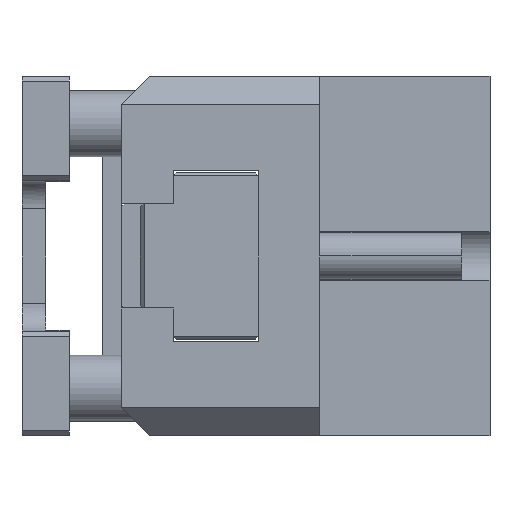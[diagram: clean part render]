
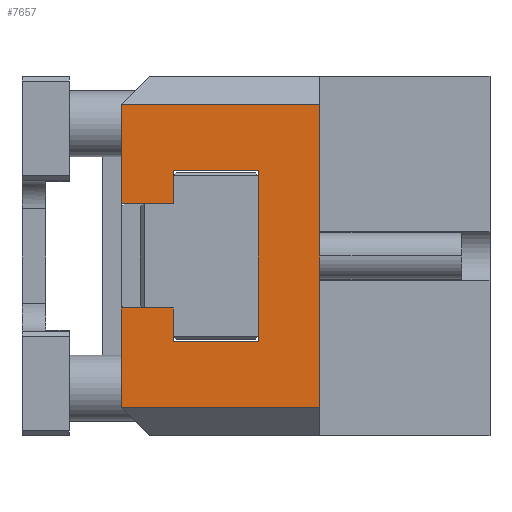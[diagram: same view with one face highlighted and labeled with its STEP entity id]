
A CAD part, left-side view. The second image highlights one B-rep face of the part: STEP entity #7657.
In plain terms, the highlighted planar face has unit normal (-1, 0, 0).
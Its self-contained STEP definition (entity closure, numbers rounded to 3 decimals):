
#239 = EDGE_CURVE ( 'NONE', #41053, #2170, #39361, .T. ) ;
#1437 = CARTESIAN_POINT ( 'NONE',  ( -32., 18., 16. ) ) ;
#1864 = VECTOR ( 'NONE', #50058, 1000. ) ;
#2170 = VERTEX_POINT ( 'NONE', #10086 ) ;
#2484 = EDGE_CURVE ( 'NONE', #2170, #48586, #17362, .T. ) ;
#3761 = LINE ( 'NONE', #38255, #43739 ) ;
#4165 = CARTESIAN_POINT ( 'NONE',  ( -32., 33.5, -5.5 ) ) ;
#4199 = ORIENTED_EDGE ( 'NONE', *, *, #10415, .F. ) ;
#4478 = CARTESIAN_POINT ( 'NONE',  ( -32., 39., 9. ) ) ;
#4515 = VECTOR ( 'NONE', #17251, 1000. ) ;
#4561 = CARTESIAN_POINT ( 'NONE',  ( -32., 24.5, 9. ) ) ;
#5506 = CARTESIAN_POINT ( 'NONE',  ( -32., 39., 19. ) ) ;
#6650 = EDGE_CURVE ( 'NONE', #12681, #35071, #30238, .T. ) ;
#7009 = CARTESIAN_POINT ( 'NONE',  ( -32., 18., -16. ) ) ;
#7068 = ORIENTED_EDGE ( 'NONE', *, *, #2484, .F. ) ;
#7374 = ORIENTED_EDGE ( 'NONE', *, *, #16388, .F. ) ;
#7657 = ADVANCED_FACE ( 'NONE', ( #30190 ), #7970, .F. ) ;
#7970 = PLANE ( 'NONE',  #33285 ) ;
#8511 = CARTESIAN_POINT ( 'NONE',  ( -32., 39., -5.5 ) ) ;
#9303 = CARTESIAN_POINT ( 'NONE',  ( -32., 39., -5.5 ) ) ;
#9557 = CARTESIAN_POINT ( 'NONE',  ( -32., 39., 5.5 ) ) ;
#10086 = CARTESIAN_POINT ( 'NONE',  ( -32., 33.5, -9. ) ) ;
#10415 = EDGE_CURVE ( 'NONE', #37239, #36576, #34174, .T. ) ;
#11374 = CARTESIAN_POINT ( 'NONE',  ( -32., 24.5, 19. ) ) ;
#11967 = DIRECTION ( 'NONE',  ( 1., 0., 0. ) ) ;
#12273 = ORIENTED_EDGE ( 'NONE', *, *, #13767, .F. ) ;
#12681 = VERTEX_POINT ( 'NONE', #15464 ) ;
#12757 = LINE ( 'NONE', #4478, #23415 ) ;
#12841 = ORIENTED_EDGE ( 'NONE', *, *, #22508, .T. ) ;
#13315 = DIRECTION ( 'NONE',  ( 0., -1., 0. ) ) ;
#13422 = EDGE_CURVE ( 'NONE', #40633, #47860, #12757, .T. ) ;
#13767 = EDGE_CURVE ( 'NONE', #48586, #40633, #35880, .T. ) ;
#14076 = CARTESIAN_POINT ( 'NONE',  ( -32., 33.5, 19. ) ) ;
#14309 = VECTOR ( 'NONE', #41452, 1000. ) ;
#15464 = CARTESIAN_POINT ( 'NONE',  ( -32., 33.5, 5.5 ) ) ;
#15598 = VECTOR ( 'NONE', #27418, 1000. ) ;
#16388 = EDGE_CURVE ( 'NONE', #35071, #37239, #38888, .T. ) ;
#17250 = ORIENTED_EDGE ( 'NONE', *, *, #6650, .F. ) ;
#17251 = DIRECTION ( 'NONE',  ( 0., 0., 1. ) ) ;
#17362 = LINE ( 'NONE', #44159, #25490 ) ;
#19718 = CARTESIAN_POINT ( 'NONE',  ( -32., 33.5, 9. ) ) ;
#20158 = VECTOR ( 'NONE', #42085, 1000. ) ;
#20543 = DIRECTION ( 'NONE',  ( 0., 1., 0. ) ) ;
#22203 = EDGE_CURVE ( 'NONE', #47860, #12681, #33688, .T. ) ;
#22508 = EDGE_CURVE ( 'NONE', #41658, #39582, #24938, .T. ) ;
#23415 = VECTOR ( 'NONE', #20543, 1000. ) ;
#23549 = CARTESIAN_POINT ( 'NONE',  ( -32., 39., 19. ) ) ;
#23773 = VERTEX_POINT ( 'NONE', #7009 ) ;
#23885 = LINE ( 'NONE', #9303, #34497 ) ;
#24253 = DIRECTION ( 'NONE',  ( 0., -1., 0. ) ) ;
#24938 = LINE ( 'NONE', #5506, #14309 ) ;
#25264 = VECTOR ( 'NONE', #27642, 1000. ) ;
#25490 = VECTOR ( 'NONE', #24253, 1000. ) ;
#25901 = CARTESIAN_POINT ( 'NONE',  ( -32., 39., 5.5 ) ) ;
#27418 = DIRECTION ( 'NONE',  ( 0., 0., -1. ) ) ;
#27642 = DIRECTION ( 'NONE',  ( 0., 0., 1. ) ) ;
#28258 = ORIENTED_EDGE ( 'NONE', *, *, #39418, .T. ) ;
#29032 = EDGE_LOOP ( 'NONE', ( #17250, #46228, #50044, #12273, #7068, #45020, #34733, #12841, #32199, #28258, #4199, #7374 ) ) ;
#29564 = CARTESIAN_POINT ( 'NONE',  ( -32., 24.5, -9. ) ) ;
#30190 = FACE_OUTER_BOUND ( 'NONE', #29032, .T. ) ;
#30238 = LINE ( 'NONE', #9557, #31486 ) ;
#30603 = EDGE_CURVE ( 'NONE', #39582, #23773, #3761, .T. ) ;
#31486 = VECTOR ( 'NONE', #41343, 1000. ) ;
#32199 = ORIENTED_EDGE ( 'NONE', *, *, #30603, .T. ) ;
#32972 = CARTESIAN_POINT ( 'NONE',  ( -32., 39., 16. ) ) ;
#33285 = AXIS2_PLACEMENT_3D ( 'NONE', #23549, #11967, #39929 ) ;
#33688 = LINE ( 'NONE', #14076, #1864 ) ;
#34174 = LINE ( 'NONE', #32972, #43570 ) ;
#34497 = VECTOR ( 'NONE', #13315, 1000. ) ;
#34733 = ORIENTED_EDGE ( 'NONE', *, *, #40234, .F. ) ;
#35071 = VERTEX_POINT ( 'NONE', #25901 ) ;
#35880 = LINE ( 'NONE', #11374, #25264 ) ;
#36576 = VERTEX_POINT ( 'NONE', #1437 ) ;
#37239 = VERTEX_POINT ( 'NONE', #40732 ) ;
#38255 = CARTESIAN_POINT ( 'NONE',  ( -32., 39., -16. ) ) ;
#38888 = LINE ( 'NONE', #49231, #4515 ) ;
#39361 = LINE ( 'NONE', #43321, #15598 ) ;
#39418 = EDGE_CURVE ( 'NONE', #23773, #36576, #41403, .T. ) ;
#39582 = VERTEX_POINT ( 'NONE', #47158 ) ;
#39929 = DIRECTION ( 'NONE',  ( 0., 1., 0. ) ) ;
#40234 = EDGE_CURVE ( 'NONE', #41658, #41053, #23885, .T. ) ;
#40633 = VERTEX_POINT ( 'NONE', #4561 ) ;
#40732 = CARTESIAN_POINT ( 'NONE',  ( -32., 39., 16. ) ) ;
#41053 = VERTEX_POINT ( 'NONE', #4165 ) ;
#41343 = DIRECTION ( 'NONE',  ( 0., 1., 0. ) ) ;
#41403 = LINE ( 'NONE', #46136, #20158 ) ;
#41452 = DIRECTION ( 'NONE',  ( 0., 0., -1. ) ) ;
#41658 = VERTEX_POINT ( 'NONE', #8511 ) ;
#42085 = DIRECTION ( 'NONE',  ( 0., 0., 1. ) ) ;
#43321 = CARTESIAN_POINT ( 'NONE',  ( -32., 33.5, 19. ) ) ;
#43570 = VECTOR ( 'NONE', #49069, 1000. ) ;
#43739 = VECTOR ( 'NONE', #46311, 1000. ) ;
#44159 = CARTESIAN_POINT ( 'NONE',  ( -32., 39., -9. ) ) ;
#45020 = ORIENTED_EDGE ( 'NONE', *, *, #239, .F. ) ;
#46136 = CARTESIAN_POINT ( 'NONE',  ( -32., 18., 19. ) ) ;
#46228 = ORIENTED_EDGE ( 'NONE', *, *, #22203, .F. ) ;
#46311 = DIRECTION ( 'NONE',  ( 0., -1., 0. ) ) ;
#47158 = CARTESIAN_POINT ( 'NONE',  ( -32., 39., -16. ) ) ;
#47860 = VERTEX_POINT ( 'NONE', #19718 ) ;
#48586 = VERTEX_POINT ( 'NONE', #29564 ) ;
#49069 = DIRECTION ( 'NONE',  ( 0., -1., 0. ) ) ;
#49231 = CARTESIAN_POINT ( 'NONE',  ( -32., 39., 19. ) ) ;
#50044 = ORIENTED_EDGE ( 'NONE', *, *, #13422, .F. ) ;
#50058 = DIRECTION ( 'NONE',  ( 0., 0., -1. ) ) ;
